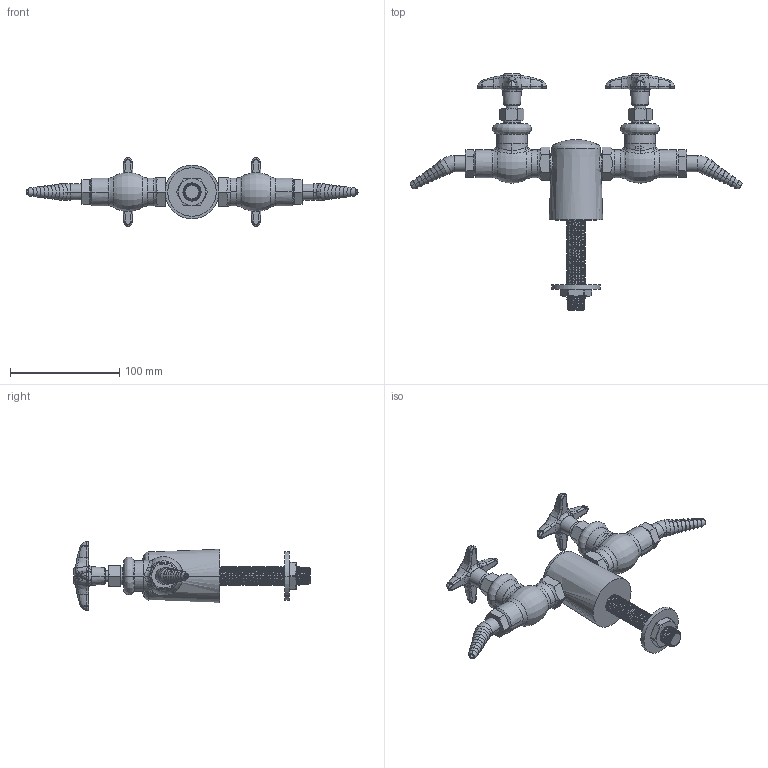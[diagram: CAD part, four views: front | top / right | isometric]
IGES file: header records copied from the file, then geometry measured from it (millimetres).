
Start section:  PTC IGES file: LGN1-A22D-25.igs
Global section: file name: LGN1-A22D-25.igs; native system: Creo Parametric by PTC Inc.; preprocessor: 2014500; author: usch_engrender; organization: Unknown; date: 20151215.145935; units: inch
Bounding box: 304.35 x 216.39 x 63.42 mm (x, y, z)
Volume: 305288.8 mm3; surface area: 67287.6 mm2
Topology: 1 solids, 10 shells, 848 faces, 1999 edges, 1209 vertices
Faces by surface type: bspline 461, revolution 387
